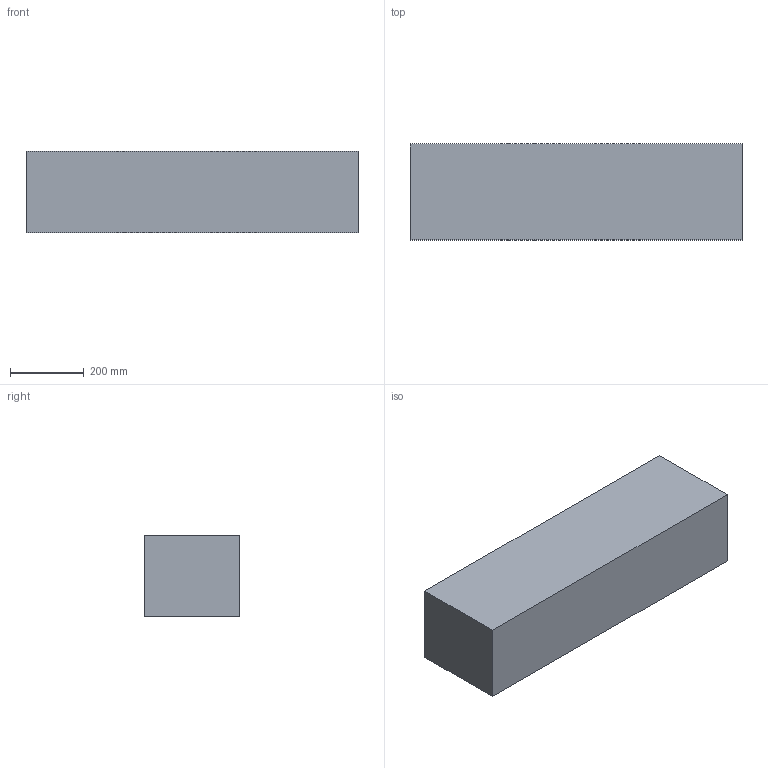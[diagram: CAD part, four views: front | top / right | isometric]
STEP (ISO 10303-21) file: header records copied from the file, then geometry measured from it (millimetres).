
FILE_DESCRIPTION(('FreeCAD Model'),'2;1');
FILE_NAME('Open CASCADE Shape Model','2026-03-31T09:49:25',('FreeCAD'),( 'FreeCAD'),'Open CASCADE STEP processor 7.8','FreeCAD','Unknown');
FILE_SCHEMA(('AUTOMOTIVE_DESIGN { 1 0 10303 214 1 1 1 1 }'));
Length unit declared in the file: millimetre
Products named in the file (1): Open CASCADE STEP translator 7.8 3
Bounding box: 900 x 260 x 220 mm (x, y, z)
Volume: 51480000 mm3; surface area: 978400 mm2
Topology: 1 solids, 1 shells, 6 faces, 12 edges, 8 vertices
Faces by surface type: plane 6
Entity records: 166 total; most frequent: CARTESIAN_POINT 27, DIRECTION 26, ORIENTED_EDGE 24, EDGE_CURVE 12, LINE 12, VECTOR 12, VERTEX_POINT 8, AXIS2_PLACEMENT_3D 7
